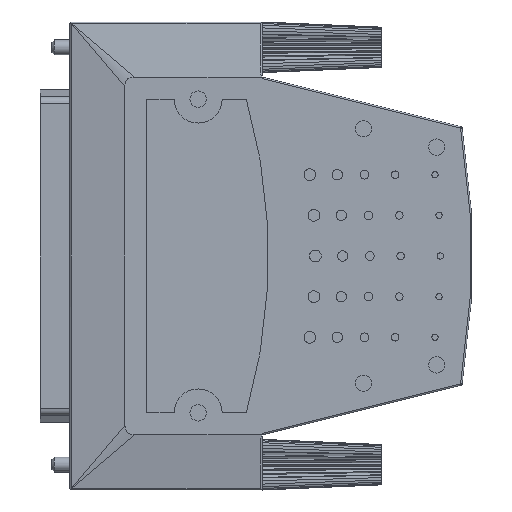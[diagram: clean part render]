
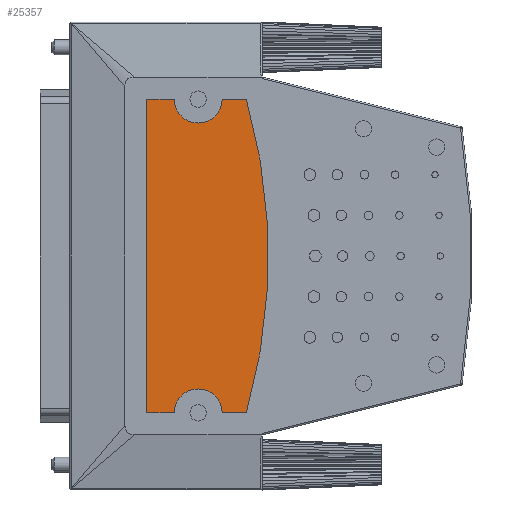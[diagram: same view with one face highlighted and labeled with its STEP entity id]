
A CAD part, front view. The second image highlights one B-rep face of the part: STEP entity #25357.
In plain terms, the highlighted planar face has unit normal (0, -1, 0).
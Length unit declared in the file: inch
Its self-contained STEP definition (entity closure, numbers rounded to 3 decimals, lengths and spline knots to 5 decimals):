
#8038=DIRECTION('',(1.,0.,0.));
#8039=VECTOR('',#8038,0.149);
#8040=CARTESIAN_POINT('',(-1.78,-0.255,0.857));
#8041=LINE('',#8040,#8039);
#8042=CARTESIAN_POINT('',(-1.5,-0.255,0.857));
#8043=DIRECTION('',(0.,-1.,0.));
#8044=DIRECTION('',(-1.,0.,0.));
#8045=AXIS2_PLACEMENT_3D('',#8042,#8043,#8044);
#8047=DIRECTION('',(1.,0.,0.));
#8048=VECTOR('',#8047,0.13247);
#8049=CARTESIAN_POINT('',(-1.369,-0.255,0.857));
#8050=LINE('',#8049,#8048);
#8051=CARTESIAN_POINT('',(-4.232,-0.255,0.));
#8052=DIRECTION('',(0.,1.,0.));
#8053=DIRECTION('',(0.961,0.,0.275));
#8054=AXIS2_PLACEMENT_3D('',#8051,#8052,#8053);
#8056=DIRECTION('',(-1.,0.,0.));
#8057=VECTOR('',#8056,0.13247);
#8058=CARTESIAN_POINT('',(-1.23653,-0.255,-0.857));
#8059=LINE('',#8058,#8057);
#8060=CARTESIAN_POINT('',(-1.5,-0.255,-0.857));
#8061=DIRECTION('',(0.,-1.,0.));
#8062=DIRECTION('',(1.,0.,0.));
#8063=AXIS2_PLACEMENT_3D('',#8060,#8061,#8062);
#8065=DIRECTION('',(-1.,0.,0.));
#8066=VECTOR('',#8065,0.149);
#8067=CARTESIAN_POINT('',(-1.631,-0.255,-0.857));
#8068=LINE('',#8067,#8066);
#8069=DIRECTION('',(0.,0.,1.));
#8070=VECTOR('',#8069,1.714);
#8071=CARTESIAN_POINT('',(-1.78,-0.255,-0.857));
#8072=LINE('',#8071,#8070);
#10450=CARTESIAN_POINT('',(-1.78,-0.255,0.857));
#10451=CARTESIAN_POINT('',(-1.631,-0.255,0.857));
#10452=VERTEX_POINT('',#10450);
#10453=VERTEX_POINT('',#10451);
#10454=CARTESIAN_POINT('',(-1.369,-0.255,0.857));
#10455=VERTEX_POINT('',#10454);
#10456=CARTESIAN_POINT('',(-1.23653,-0.255,0.857));
#10457=VERTEX_POINT('',#10456);
#10458=CARTESIAN_POINT('',(-1.23653,-0.255,-0.857));
#10459=VERTEX_POINT('',#10458);
#10460=CARTESIAN_POINT('',(-1.369,-0.255,-0.857));
#10461=VERTEX_POINT('',#10460);
#10462=CARTESIAN_POINT('',(-1.631,-0.255,-0.857));
#10463=VERTEX_POINT('',#10462);
#10464=CARTESIAN_POINT('',(-1.78,-0.255,-0.857));
#10465=VERTEX_POINT('',#10464);
#25342=CARTESIAN_POINT('',(-1.9,-0.255,0.));
#25343=DIRECTION('',(0.,1.,0.));
#25344=DIRECTION('',(1.,0.,0.));
#25345=AXIS2_PLACEMENT_3D('',#25342,#25343,#25344);
#25346=PLANE('',#25345);
#25347=ORIENTED_EDGE('',*,*,#25238,.T.);
#25348=ORIENTED_EDGE('',*,*,#25253,.T.);
#25349=ORIENTED_EDGE('',*,*,#25267,.T.);
#25350=ORIENTED_EDGE('',*,*,#25281,.T.);
#25351=ORIENTED_EDGE('',*,*,#25295,.T.);
#25352=ORIENTED_EDGE('',*,*,#25309,.T.);
#25353=ORIENTED_EDGE('',*,*,#25323,.T.);
#25354=ORIENTED_EDGE('',*,*,#25336,.T.);
#25355=EDGE_LOOP('',(#25347,#25348,#25349,#25350,#25351,#25352,#25353,#25354));
#25356=FACE_OUTER_BOUND('',#25355,.F.);
#25357=ADVANCED_FACE('',(#25356),#25346,.F.);
#8046=CIRCLE('',#8045,0.131);
#8055=CIRCLE('',#8054,3.11565);
#8064=CIRCLE('',#8063,0.131);
#25238=EDGE_CURVE('',#10452,#10453,#8041,.T.);
#25253=EDGE_CURVE('',#10453,#10455,#8046,.T.);
#25267=EDGE_CURVE('',#10455,#10457,#8050,.T.);
#25281=EDGE_CURVE('',#10457,#10459,#8055,.T.);
#25295=EDGE_CURVE('',#10459,#10461,#8059,.T.);
#25309=EDGE_CURVE('',#10461,#10463,#8064,.T.);
#25323=EDGE_CURVE('',#10463,#10465,#8068,.T.);
#25336=EDGE_CURVE('',#10465,#10452,#8072,.T.);
